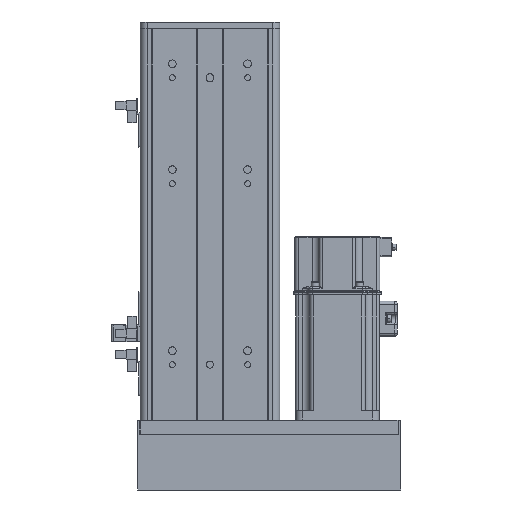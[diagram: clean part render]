
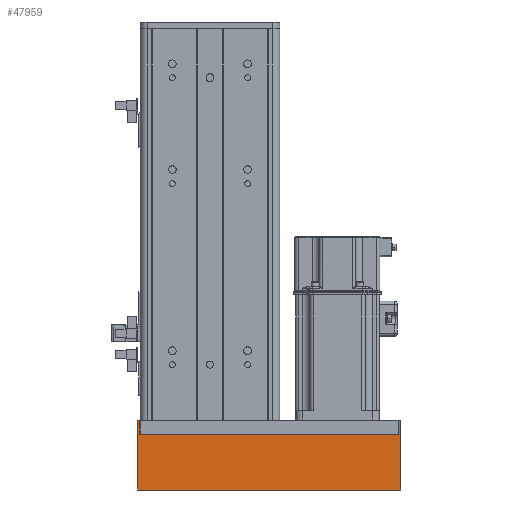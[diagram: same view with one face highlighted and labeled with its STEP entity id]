
A CAD part, front view. The second image highlights one B-rep face of the part: STEP entity #47959.
In plain terms, the highlighted planar face has unit normal (0, -1, 0).
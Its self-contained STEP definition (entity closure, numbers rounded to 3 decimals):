
#626 = EDGE_LOOP ( 'NONE', ( #44273, #34941, #55067, #66771, #43069, #15155, #40220, #59837 ) ) ;
#1105 = CARTESIAN_POINT ( 'NONE',  ( -94.4, -35.5, 0. ) ) ;
#1568 = DIRECTION ( 'NONE',  ( 0., 0., -1. ) ) ;
#1974 = LINE ( 'NONE', #3457, #36279 ) ;
#2404 = CARTESIAN_POINT ( 'NONE',  ( 93., -35.5, 0. ) ) ;
#3457 = CARTESIAN_POINT ( 'NONE',  ( 93., -35.5, 48.4 ) ) ;
#3611 = DIRECTION ( 'NONE',  ( 1., 0., 0. ) ) ;
#3648 = CARTESIAN_POINT ( 'NONE',  ( -92.8, -35.5, 10. ) ) ;
#4107 = DIRECTION ( 'NONE',  ( 0., 1., 0. ) ) ;
#4525 = DIRECTION ( 'NONE',  ( 0., 0., 1. ) ) ;
#4540 = EDGE_CURVE ( 'NONE', #24575, #62898, #50288, .T. ) ;
#5149 = CARTESIAN_POINT ( 'NONE',  ( 94.6, -35.5, 48.4 ) ) ;
#6832 = AXIS2_PLACEMENT_3D ( 'NONE', #34598, #4107, #4525 ) ;
#7002 = VECTOR ( 'NONE', #58975, 1000. ) ;
#7518 = DIRECTION ( 'NONE',  ( -1., 0., 0. ) ) ;
#7833 = VERTEX_POINT ( 'NONE', #24604 ) ;
#8202 = PLANE ( 'NONE',  #6832 ) ;
#9601 = CARTESIAN_POINT ( 'NONE',  ( 94.6, -35.5, 50. ) ) ;
#9727 = EDGE_CURVE ( 'NONE', #61809, #15892, #62696, .T. ) ;
#10879 = VERTEX_POINT ( 'NONE', #9601 ) ;
#15155 = ORIENTED_EDGE ( 'NONE', *, *, #9727, .F. ) ;
#15892 = VERTEX_POINT ( 'NONE', #1105 ) ;
#17251 = CARTESIAN_POINT ( 'NONE',  ( -92.8, -35.5, 48.4 ) ) ;
#18079 = CARTESIAN_POINT ( 'NONE',  ( 93., -35.5, 10. ) ) ;
#19477 = VECTOR ( 'NONE', #34408, 1000. ) ;
#19985 = EDGE_CURVE ( 'NONE', #62898, #42445, #1974, .T. ) ;
#24575 = VERTEX_POINT ( 'NONE', #67048 ) ;
#24604 = CARTESIAN_POINT ( 'NONE',  ( -94.4, -35.5, 50. ) ) ;
#24676 = LINE ( 'NONE', #17251, #59801 ) ;
#25604 = DIRECTION ( 'NONE',  ( 0., 0., 1. ) ) ;
#26917 = EDGE_CURVE ( 'NONE', #54242, #61809, #24676, .T. ) ;
#27311 = CARTESIAN_POINT ( 'NONE',  ( -92.8, -35.5, 0. ) ) ;
#28825 = EDGE_CURVE ( 'NONE', #7833, #10879, #47347, .T. ) ;
#29959 = EDGE_CURVE ( 'NONE', #42445, #54242, #56239, .T. ) ;
#34408 = DIRECTION ( 'NONE',  ( -1., 0., 0. ) ) ;
#34598 = CARTESIAN_POINT ( 'NONE',  ( -92.8, -35.5, 48.4 ) ) ;
#34925 = LINE ( 'NONE', #5149, #61956 ) ;
#34941 = ORIENTED_EDGE ( 'NONE', *, *, #4540, .F. ) ;
#35569 = FACE_OUTER_BOUND ( 'NONE', #626, .T. ) ;
#36279 = VECTOR ( 'NONE', #55236, 1000. ) ;
#40220 = ORIENTED_EDGE ( 'NONE', *, *, #26917, .F. ) ;
#42445 = VERTEX_POINT ( 'NONE', #18079 ) ;
#42916 = CARTESIAN_POINT ( 'NONE',  ( -92.8, -35.5, 0. ) ) ;
#43069 = ORIENTED_EDGE ( 'NONE', *, *, #62938, .F. ) ;
#44273 = ORIENTED_EDGE ( 'NONE', *, *, #19985, .F. ) ;
#45125 = EDGE_CURVE ( 'NONE', #24575, #10879, #34925, .T. ) ;
#47347 = LINE ( 'NONE', #55164, #56307 ) ;
#47959 = ADVANCED_FACE ( 'NONE', ( #35569 ), #8202, .F. ) ;
#48794 = VECTOR ( 'NONE', #53837, 1000. ) ;
#50288 = LINE ( 'NONE', #59975, #56020 ) ;
#53837 = DIRECTION ( 'NONE',  ( -1., 0., 0. ) ) ;
#54242 = VERTEX_POINT ( 'NONE', #55656 ) ;
#55067 = ORIENTED_EDGE ( 'NONE', *, *, #45125, .T. ) ;
#55164 = CARTESIAN_POINT ( 'NONE',  ( -92.8, -35.5, 50. ) ) ;
#55236 = DIRECTION ( 'NONE',  ( 0., 0., 1. ) ) ;
#55656 = CARTESIAN_POINT ( 'NONE',  ( -92.8, -35.5, 10. ) ) ;
#56020 = VECTOR ( 'NONE', #7518, 1000. ) ;
#56239 = LINE ( 'NONE', #3648, #19477 ) ;
#56307 = VECTOR ( 'NONE', #3611, 1000. ) ;
#58772 = CARTESIAN_POINT ( 'NONE',  ( -94.4, -35.5, 48.4 ) ) ;
#58975 = DIRECTION ( 'NONE',  ( 0., 0., 1. ) ) ;
#59801 = VECTOR ( 'NONE', #1568, 1000. ) ;
#59837 = ORIENTED_EDGE ( 'NONE', *, *, #29959, .F. ) ;
#59975 = CARTESIAN_POINT ( 'NONE',  ( -92.8, -35.5, 0. ) ) ;
#61809 = VERTEX_POINT ( 'NONE', #42916 ) ;
#61956 = VECTOR ( 'NONE', #25604, 1000. ) ;
#62696 = LINE ( 'NONE', #27311, #48794 ) ;
#62898 = VERTEX_POINT ( 'NONE', #2404 ) ;
#62938 = EDGE_CURVE ( 'NONE', #15892, #7833, #65044, .T. ) ;
#65044 = LINE ( 'NONE', #58772, #7002 ) ;
#66771 = ORIENTED_EDGE ( 'NONE', *, *, #28825, .F. ) ;
#67048 = CARTESIAN_POINT ( 'NONE',  ( 94.6, -35.5, 0. ) ) ;
